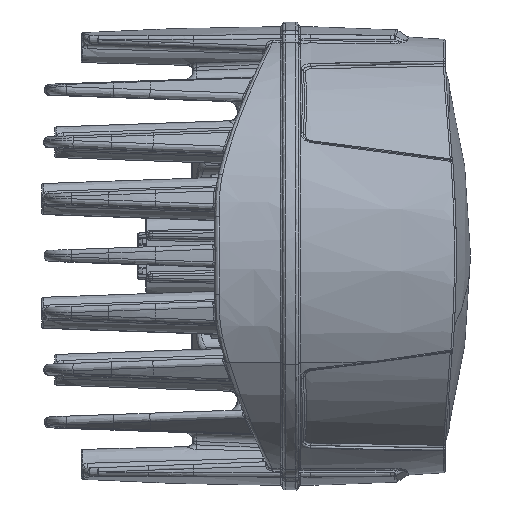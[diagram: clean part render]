
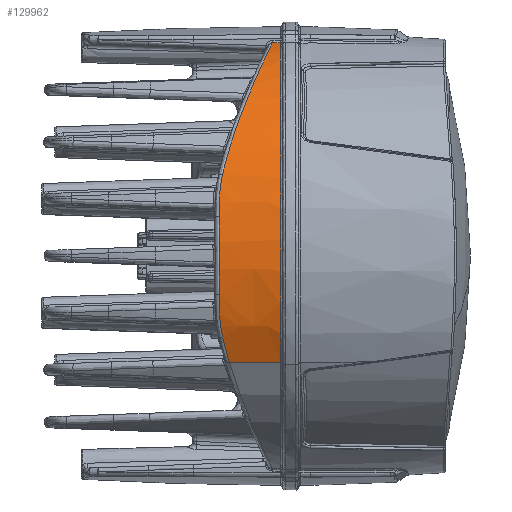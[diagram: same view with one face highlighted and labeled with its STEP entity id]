
A CAD part, top view. The second image highlights one B-rep face of the part: STEP entity #129962.
In plain terms, the highlighted face is a revolution surface.
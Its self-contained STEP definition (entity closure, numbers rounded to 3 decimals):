
#129843=AXIS2_PLACEMENT_3D('Circle Axis2P3D',#129841,#129842,$) ;
#129929=AXIS2_PLACEMENT_3D('Circle Axis2P3D',#129927,#129928,$) ;
#124625=CARTESIAN_POINT('Vertex',(-4.809,-24.448,44.748)) ;
#127292=CARTESIAN_POINT('Control Point',(-4.853,47.832,17.675)) ;
#127293=CARTESIAN_POINT('Control Point',(-4.853,47.866,17.583)) ;
#127294=CARTESIAN_POINT('Control Point',(-4.854,47.9,17.491)) ;
#127295=CARTESIAN_POINT('Control Point',(-4.855,47.933,17.399)) ;
#127296=CARTESIAN_POINT('Control Point',(-4.858,48.027,17.141)) ;
#127297=CARTESIAN_POINT('Control Point',(-4.864,48.119,16.88)) ;
#127298=CARTESIAN_POINT('Control Point',(-4.868,48.178,16.71)) ;
#127299=CARTESIAN_POINT('Control Point',(-4.871,48.237,16.539)) ;
#127300=CARTESIAN_POINT('Control Point',(-4.871,48.296,16.366)) ;
#127301=CARTESIAN_POINT('Vertex',(-4.871,48.296,16.366)) ;
#127303=CARTESIAN_POINT('Vertex',(-4.853,47.832,17.675)) ;
#127383=CARTESIAN_POINT('Control Point',(-4.809,-24.448,44.748)) ;
#127384=CARTESIAN_POINT('Control Point',(-4.804,-18.615,47.935)) ;
#127385=CARTESIAN_POINT('Control Point',(-4.8,-12.263,50.171)) ;
#127386=CARTESIAN_POINT('Control Point',(-4.798,-5.599,51.344)) ;
#127387=CARTESIAN_POINT('Control Point',(-4.798,8.473,51.482)) ;
#127388=CARTESIAN_POINT('Control Point',(-4.806,21.829,46.946)) ;
#127389=CARTESIAN_POINT('Control Point',(-4.811,28.296,43.357)) ;
#127390=CARTESIAN_POINT('Control Point',(-4.823,36.833,36.367)) ;
#127391=CARTESIAN_POINT('Control Point',(-4.837,43.175,27.494)) ;
#127392=CARTESIAN_POINT('Control Point',(-4.842,45.02,24.356)) ;
#127393=CARTESIAN_POINT('Control Point',(-4.848,46.577,21.071)) ;
#127394=CARTESIAN_POINT('Control Point',(-4.853,47.832,17.675)) ;
#127428=CARTESIAN_POINT('Control Point',(-4.809,-24.448,44.748)) ;
#127429=CARTESIAN_POINT('Control Point',(-8.707,-24.441,44.742)) ;
#127430=CARTESIAN_POINT('Control Point',(-12.606,-24.42,44.711)) ;
#127431=CARTESIAN_POINT('Control Point',(-16.503,-24.386,44.654)) ;
#127432=CARTESIAN_POINT('Vertex',(-16.503,-24.386,44.654)) ;
#129841=CARTESIAN_POINT('Axis2P3D Location',(-4.898,0.,-0.003)) ;
#129845=CARTESIAN_POINT('Vertex',(-4.873,48.681,15.183)) ;
#129885=CARTESIAN_POINT('Control Point',(-4.798,0.,50.991)) ;
#129886=CARTESIAN_POINT('Control Point',(-9.5,0.,50.981)) ;
#129887=CARTESIAN_POINT('Control Point',(-14.202,0.,50.93)) ;
#129888=CARTESIAN_POINT('Control Point',(-18.902,0.,50.837)) ;
#129889=CARTESIAN_POINT('Axis1P Location',(166.1,0.,-0.281)) ;
#129894=CARTESIAN_POINT('Control Point',(-6.673,48.691,15.123)) ;
#129895=CARTESIAN_POINT('Control Point',(-6.073,48.688,15.143)) ;
#129896=CARTESIAN_POINT('Control Point',(-5.473,48.685,15.163)) ;
#129897=CARTESIAN_POINT('Control Point',(-4.873,48.681,15.183)) ;
#129898=CARTESIAN_POINT('Vertex',(-6.673,48.691,15.123)) ;
#129902=CARTESIAN_POINT('Control Point',(-6.673,48.691,15.123)) ;
#129903=CARTESIAN_POINT('Control Point',(-7.2,47.605,18.608)) ;
#129904=CARTESIAN_POINT('Control Point',(-7.87,46.212,21.979)) ;
#129905=CARTESIAN_POINT('Control Point',(-8.665,44.53,25.196)) ;
#129906=CARTESIAN_POINT('Control Point',(-10.491,40.544,31.414)) ;
#129907=CARTESIAN_POINT('Control Point',(-12.61,35.497,36.82)) ;
#129908=CARTESIAN_POINT('Control Point',(-13.736,32.655,39.351)) ;
#129909=CARTESIAN_POINT('Control Point',(-15.345,28.242,42.597)) ;
#129910=CARTESIAN_POINT('Control Point',(-16.845,23.291,45.275)) ;
#129911=CARTESIAN_POINT('Control Point',(-17.276,21.772,46.018)) ;
#129912=CARTESIAN_POINT('Control Point',(-17.688,20.204,46.705)) ;
#129913=CARTESIAN_POINT('Control Point',(-18.074,18.59,47.332)) ;
#129914=CARTESIAN_POINT('Vertex',(-18.074,18.59,47.332)) ;
#129918=CARTESIAN_POINT('Control Point',(-18.074,18.59,47.332)) ;
#129919=CARTESIAN_POINT('Control Point',(-18.506,16.783,48.033)) ;
#129920=CARTESIAN_POINT('Control Point',(-18.713,14.862,48.684)) ;
#129921=CARTESIAN_POINT('Control Point',(-18.811,12.909,49.235)) ;
#129922=CARTESIAN_POINT('Control Point',(-18.84,10.92,49.693)) ;
#129923=CARTESIAN_POINT('Control Point',(-18.84,8.909,50.051)) ;
#129924=CARTESIAN_POINT('Vertex',(-18.84,8.909,50.051)) ;
#129927=CARTESIAN_POINT('Axis2P3D Location',(-18.921,0.,0.019)) ;
#129931=CARTESIAN_POINT('Vertex',(-18.84,-8.909,50.051)) ;
#129935=CARTESIAN_POINT('Control Point',(-18.84,-8.909,50.051)) ;
#129936=CARTESIAN_POINT('Control Point',(-18.84,-10.921,49.693)) ;
#129937=CARTESIAN_POINT('Control Point',(-18.811,-12.91,49.234)) ;
#129938=CARTESIAN_POINT('Control Point',(-18.713,-14.862,48.683)) ;
#129939=CARTESIAN_POINT('Control Point',(-18.506,-16.783,48.033)) ;
#129940=CARTESIAN_POINT('Control Point',(-18.074,-18.59,47.332)) ;
#129941=CARTESIAN_POINT('Vertex',(-18.074,-18.59,47.332)) ;
#129945=CARTESIAN_POINT('Control Point',(-16.503,-24.386,44.654)) ;
#129946=CARTESIAN_POINT('Control Point',(-17.059,-22.544,45.65)) ;
#129947=CARTESIAN_POINT('Control Point',(-17.591,-20.612,46.547)) ;
#129948=CARTESIAN_POINT('Control Point',(-18.074,-18.59,47.332)) ;
#129842=DIRECTION('Axis2P3D Direction',(1.,0.,-0.002)) ;
#129890=DIRECTION('Axis1P Direction',(1.,0.,-0.002)) ;
#129928=DIRECTION('Axis2P3D Direction',(1.,0.,-0.002)) ;
#129891=AXIS1_PLACEMENT('Revolution Surface Axis1P',#129889,#129890) ;
#129951=ORIENTED_EDGE('',*,*,#127434,.F.) ;
#129952=ORIENTED_EDGE('',*,*,#127395,.F.) ;
#129953=ORIENTED_EDGE('',*,*,#127305,.F.) ;
#129954=ORIENTED_EDGE('',*,*,#129847,.F.) ;
#129955=ORIENTED_EDGE('',*,*,#129900,.F.) ;
#129956=ORIENTED_EDGE('',*,*,#129916,.F.) ;
#129957=ORIENTED_EDGE('',*,*,#129926,.F.) ;
#129958=ORIENTED_EDGE('',*,*,#129933,.F.) ;
#129959=ORIENTED_EDGE('',*,*,#129943,.F.) ;
#129960=ORIENTED_EDGE('',*,*,#129949,.F.) ;
#129962=ADVANCED_FACE('Houisng_gr',(#129961),#129892,.F.) ;
#127291=B_SPLINE_CURVE_WITH_KNOTS('',5,(#127292,#127293,#127294,#127295,#127296,#127297,#127298,#127299,#127300),.UNSPECIFIED.,.F.,.U.,(6,3,6),(6.405,7.02,8.126),.UNSPECIFIED.) ;
#127382=B_SPLINE_CURVE_WITH_KNOTS('',5,(#127383,#127384,#127385,#127386,#127387,#127388,#127389,#127390,#127391,#127392,#127393,#127394),.UNSPECIFIED.,.F.,.U.,(6,3,3,6),(0.,52.953,110.654,139.502),.UNSPECIFIED.) ;
#127427=B_SPLINE_CURVE_WITH_KNOTS('',3,(#127428,#127429,#127430,#127431),.UNSPECIFIED.,.F.,.U.,(4,4),(1259.619,1271.314),.UNSPECIFIED.) ;
#129884=B_SPLINE_CURVE_WITH_KNOTS('',3,(#129885,#129886,#129887,#129888),.UNSPECIFIED.,.F.,.U.,(4,4),(1259.618,1273.724),.UNSPECIFIED.) ;
#129893=B_SPLINE_CURVE_WITH_KNOTS('',3,(#129894,#129895,#129896,#129897),.UNSPECIFIED.,.F.,.U.,(4,4),(32.196,34.744),.UNSPECIFIED.) ;
#129901=B_SPLINE_CURVE_WITH_KNOTS('',5,(#129902,#129903,#129904,#129905,#129906,#129907,#129908,#129909,#129910,#129911,#129912,#129913),.UNSPECIFIED.,.F.,.U.,(6,3,3,6),(25.181,50.752,77.48,88.771),.UNSPECIFIED.) ;
#129917=B_SPLINE_CURVE_WITH_KNOTS('',5,(#129918,#129919,#129920,#129921,#129922,#129923),.UNSPECIFIED.,.F.,.U.,(6,6),(117.439,129.799),.UNSPECIFIED.) ;
#129934=B_SPLINE_CURVE_WITH_KNOTS('',5,(#129935,#129936,#129937,#129938,#129939,#129940),.UNSPECIFIED.,.F.,.U.,(6,6),(120.974,133.338),.UNSPECIFIED.) ;
#129944=B_SPLINE_CURVE_WITH_KNOTS('',3,(#129945,#129946,#129947,#129948),.UNSPECIFIED.,.F.,.U.,(4,4),(0.,8.485),.UNSPECIFIED.) ;
#129844=CIRCLE('generated circle',#129843,50.994) ;
#129930=CIRCLE('generated circle',#129929,50.819) ;
#127305=EDGE_CURVE('',#127302,#127304,#127291,.F.) ;
#127395=EDGE_CURVE('',#127304,#124626,#127382,.F.) ;
#127434=EDGE_CURVE('',#124626,#127433,#127427,.T.) ;
#129847=EDGE_CURVE('',#129846,#127302,#129844,.T.) ;
#129900=EDGE_CURVE('',#129899,#129846,#129893,.T.) ;
#129916=EDGE_CURVE('',#129915,#129899,#129901,.F.) ;
#129926=EDGE_CURVE('',#129925,#129915,#129917,.F.) ;
#129933=EDGE_CURVE('',#129932,#129925,#129930,.F.) ;
#129943=EDGE_CURVE('',#129942,#129932,#129934,.F.) ;
#129949=EDGE_CURVE('',#127433,#129942,#129944,.T.) ;
#129950=EDGE_LOOP('',(#129951,#129952,#129953,#129954,#129955,#129956,#129957,#129958,#129959,#129960)) ;
#129961=FACE_OUTER_BOUND('',#129950,.T.) ;
#129892=SURFACE_OF_REVOLUTION('Surface of Revolution',#129884,#129891) ;
#124626=VERTEX_POINT('',#124625) ;
#127302=VERTEX_POINT('',#127301) ;
#127304=VERTEX_POINT('',#127303) ;
#127433=VERTEX_POINT('',#127432) ;
#129846=VERTEX_POINT('',#129845) ;
#129899=VERTEX_POINT('',#129898) ;
#129915=VERTEX_POINT('',#129914) ;
#129925=VERTEX_POINT('',#129924) ;
#129932=VERTEX_POINT('',#129931) ;
#129942=VERTEX_POINT('',#129941) ;
